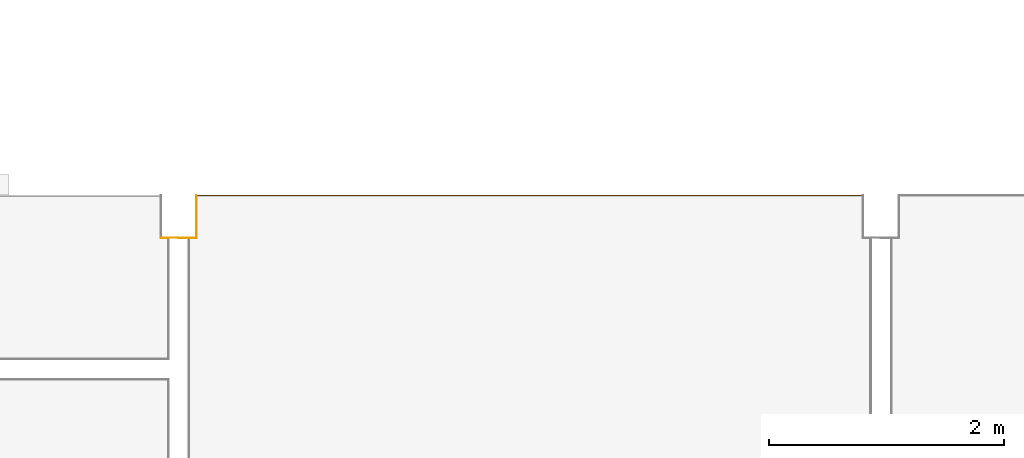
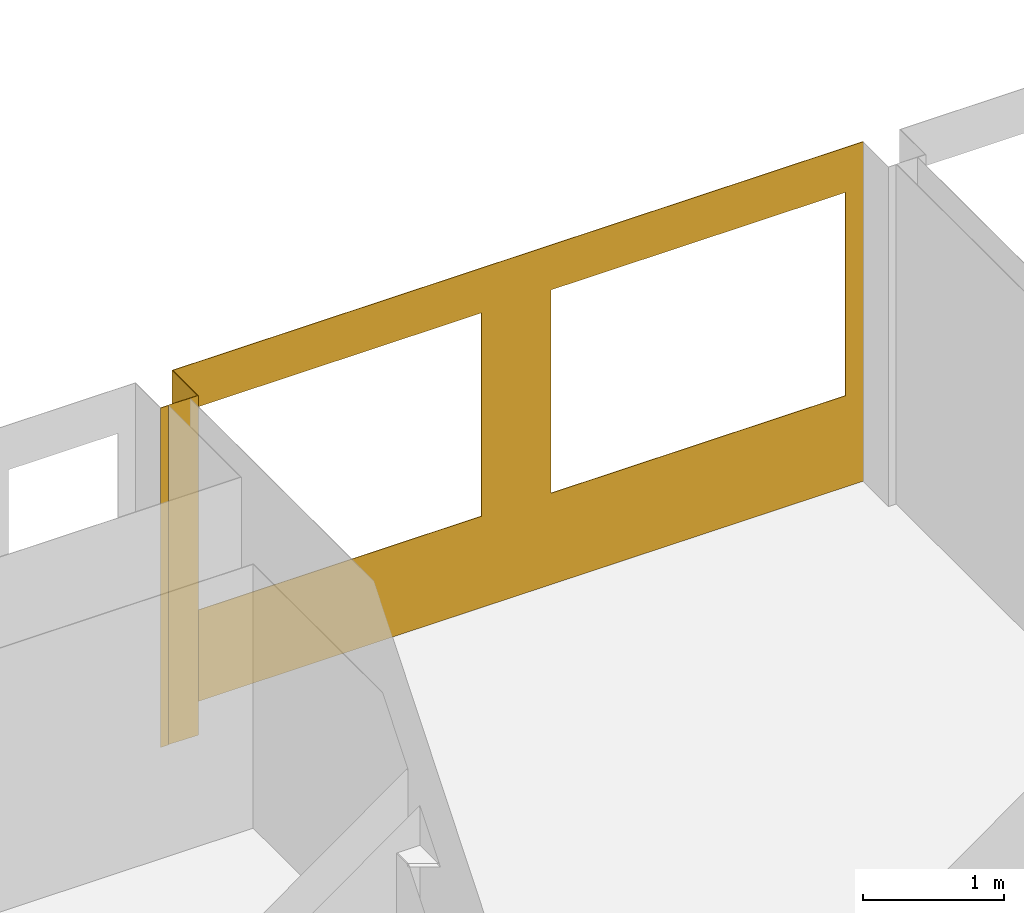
# One storey, part 11 of 33: 4 coverings, 2 openings.
"""IFC2X3 building model written with IfcOpenShell, lengths in millimetres."""

from ifc_helpers import new_model, entity, si_unit, converted_unit, derived_unit, money_unit, direction, frame, origin_with_axes, origin_2d_with_axis, place, context, subcontext, project, spatial, polyline, rectangle, outline, extrude, material, type_object, element, save


model = new_model("IFC2X3")

# Units and contexts
model_context = context("Model", 3, precision=0.01, world=origin_with_axes(), true_north=direction((0.0, 1.0)))
body_context = subcontext(model_context, "Body", "Model", "MODEL_VIEW")
ifc_project = project(units=[si_unit("LENGTHUNIT", "METRE", prefix="MILLI"), si_unit("AREAUNIT", "SQUARE_METRE"), si_unit("VOLUMEUNIT", "CUBIC_METRE"), converted_unit("PLANEANGLEUNIT", "DEGREE", entity("IfcPlaneAngleMeasure", 0.0174532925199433), si_unit("PLANEANGLEUNIT", "RADIAN"), dimensions=[0, 0, 0, 0, 0, 0, 0]), money_unit("EUR"), converted_unit("TIMEUNIT", "Year", entity("IfcTimeMeasure", 31556926.0), si_unit("TIMEUNIT", "SECOND"), dimensions=[0, 0, 1, 0, 0, 0, 0]), si_unit("MASSUNIT", "GRAM", prefix="KILO"), si_unit("THERMODYNAMICTEMPERATUREUNIT", "DEGREE_CELSIUS"), si_unit("LUMINOUSINTENSITYUNIT", "LUMEN"), si_unit("ENERGYUNIT", "JOULE", prefix="MEGA"), derived_unit("THERMALCONDUCTANCEUNIT", [(si_unit("POWERUNIT", "WATT"), 1), (si_unit("LENGTHUNIT", "METRE"), -1), (si_unit("THERMODYNAMICTEMPERATUREUNIT", "KELVIN"), -1)]), derived_unit("SPECIFICHEATCAPACITYUNIT", [(si_unit("ENERGYUNIT", "JOULE"), 1), (si_unit("MASSUNIT", "GRAM", prefix="KILO"), -1), (si_unit("THERMODYNAMICTEMPERATUREUNIT", "KELVIN"), -1)]), derived_unit("MASSDENSITYUNIT", [(si_unit("MASSUNIT", "GRAM", prefix="KILO"), 1), (si_unit("VOLUMEUNIT", "CUBIC_METRE"), -1)])], contexts=[model_context])

# Site, building, storey
site_placement = place(None, origin_with_axes())
site = spatial("IfcSite", under=ifc_project, at=site_placement, Name="Paldiski mnt 245/1, Tallinn, Harjumaa", CompositionType="COMPLEX")
building_placement = place(site_placement, origin_with_axes())
building = spatial("IfcBuilding", under=site, at=building_placement, Name="RKAS Hoone üldnimetus (kasutust iseloomustav) -> IFC Project Manager -> SOLIBRI", CompositionType="ELEMENT")
storey_placement = place(building_placement, origin_with_axes())
storey = spatial("IfcBuildingStorey", under=building, at=storey_placement, Name="Esimene korrus", CompositionType="ELEMENT", Elevation=0.0)

# Coverings
ifc_material_1 = material(Name="SA- Värv SM4(Niiskuskindel värv)")
covering_type_1 = type_object("IfcCoveringType", Name="SA- Värv SM4(Niiskuskindel värv) 5", PredefinedType="CLADDING")
covering_1_placement = place(storey_placement, frame((-35524.99999999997, -469.999999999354, 0.0), z_axis=(0.0, 0.0, 1.0), x_axis=(-1.0, 0.0, 0.0)))
element("IfcCovering", 1, at=covering_1_placement, inside=storey, type_object=covering_type_1, material=ifc_material_1, Name="SM4", PredefinedType="CLADDING", context=body_context, shape_type="SweptSolid", body=[
    extrude(outline(polyline([(0.0, 0.0), (64.99999999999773, 0.0), (70.00000000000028, 5.000000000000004), (5.000000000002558, 5.000000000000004), (0.0, 0.0)])), origin_with_axes(), (0.0, 0.0, 1.0), 2950.0),
])
ifc_material_2 = material(Name="SA- Värv SM5(valge)")
covering_type_2 = type_object("IfcCoveringType", Name="SA- Värv SM5(valge) 5", PredefinedType="CLADDING")
covering_2_placement = place(storey_placement, frame((-35289.99999999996, -107.9999999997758, 0.0), z_axis=(0.0, 0.0, 1.0), x_axis=(0.0, -1.0, 0.0)))
element("IfcCovering", 2, at=covering_2_placement, inside=storey, type_object=covering_type_2, material=ifc_material_2, Name="SM5", PredefinedType="CLADDING", context=body_context, shape_type="SweptSolid", body=[
    extrude(outline(polyline([(-4.112821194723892e-10, 0.0), (361.9999999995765, 0.0), (366.9999999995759, 5.000000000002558), (-4.112682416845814e-10, 5.000000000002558), (-4.112821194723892e-10, 0.0)])), origin_with_axes(), (0.0, 0.0, 1.0), 2950.0),
])

# Covering, openings
covering_3_placement = place(storey_placement, frame((-29609.99999999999, -107.9999999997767, 0.0), z_axis=(0.0, 0.0, 1.0), x_axis=(-1.0, 0.0, 0.0)))
covering_3 = element("IfcCovering", 3, at=covering_3_placement, inside=storey, type_object=covering_type_2, material=ifc_material_2, Name="SM5", PredefinedType="CLADDING", context=body_context, shape_type="SweptSolid", body=[
    extrude(outline(polyline([(0.0, 0.0), (5679.999999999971, 0.0), (5679.999999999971, 5.000000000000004), (0.0, 5.000000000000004), (0.0, 0.0)])), origin_with_axes(), (0.0, 0.0, 1.0), 2950.0),
])
opening_1_placement = place(covering_3_placement, frame((-29609.99999999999, -107.9999999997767, 0.0), z_axis=(0.0, 0.0, 1.0), x_axis=(-1.0, 0.0, 0.0)))
element("IfcOpeningElement", 4, at=opening_1_placement, cuts=covering_3, Name="AVA", ObjectType="OPENING", context=body_context, shape_type="SweptSolid", body=[
    extrude(rectangle(XDim=2420.000000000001, YDim=1765.993773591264, at=origin_2d_with_axis()), frame((-33959.99999999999, -102.9999999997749, 1677.003113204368), z_axis=(0.0, 1.0, 0.0), x_axis=(-1.0, 0.0, 0.0)), (0.0, 0.0, -1.0), 15.00000000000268),
])
opening_2_placement = place(covering_3_placement, frame((-29609.99999999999, -107.9999999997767, 0.0), z_axis=(0.0, 0.0, 1.0), x_axis=(-1.0, 0.0, 0.0)))
element("IfcOpeningElement", 5, at=opening_2_placement, cuts=covering_3, Name="AVA", ObjectType="OPENING", context=body_context, shape_type="SweptSolid", body=[
    extrude(rectangle(XDim=2420.000000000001, YDim=1765.993773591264, at=origin_2d_with_axis()), frame((-30967.63244135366, -102.9999999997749, 1677.003113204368), z_axis=(0.0, 1.0, 0.0), x_axis=(-1.0, 0.0, 0.0)), (0.0, 0.0, -1.0), 15.00000000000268),
])

# Covering
covering_4_placement = place(storey_placement, frame((-35289.99999999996, -469.9999999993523, 0.0), z_axis=(0.0, 0.0, 1.0), x_axis=(-1.0, 0.0, 0.0)))
element("IfcCovering", 6, at=covering_4_placement, inside=storey, type_object=covering_type_2, material=ifc_material_2, Name="SM5", PredefinedType="CLADDING", context=body_context, shape_type="SweptSolid", body=[
    extrude(outline(polyline([(0.0, 0.0), (235.0000000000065, 0.0), (65.00000000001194, 5.000000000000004), (-5.000000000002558, 5.000000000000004), (0.0, 0.0)])), origin_with_axes(), (0.0, 0.0, 1.0), 2950.0),
])

save(model, "model.ifc")
